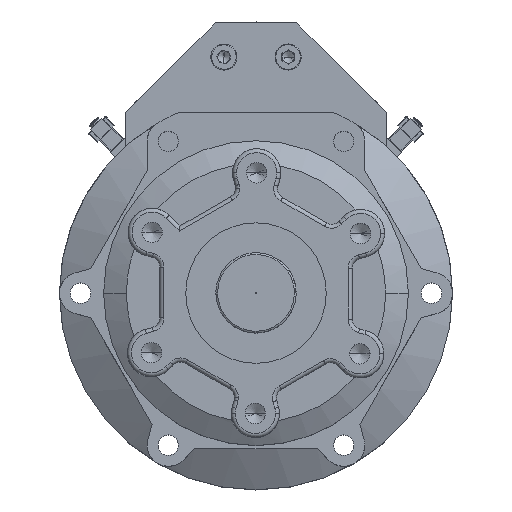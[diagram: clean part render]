
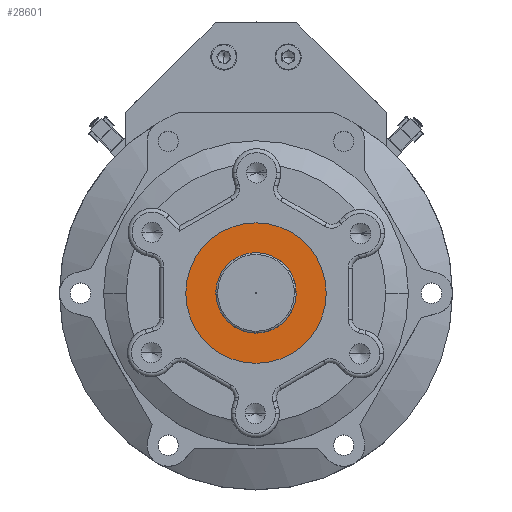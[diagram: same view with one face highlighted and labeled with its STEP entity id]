
A CAD part, top view. The second image highlights one B-rep face of the part: STEP entity #28601.
In plain terms, the highlighted planar face has unit normal (0, 0, 1).
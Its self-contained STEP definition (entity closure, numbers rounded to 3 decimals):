
#1454 = CARTESIAN_POINT ( 'NONE',  ( 35., 0., 89. ) ) ;
#1635 = AXIS2_PLACEMENT_3D ( 'NONE', #3825, #33410, #12878 ) ;
#1771 = EDGE_CURVE ( 'NONE', #25637, #5842, #14122, .T. ) ;
#2329 = DIRECTION ( 'NONE',  ( 0., 0., 1. ) ) ;
#2912 = FACE_BOUND ( 'NONE', #28124, .T. ) ;
#3601 = CARTESIAN_POINT ( 'NONE',  ( 0., 0., 89. ) ) ;
#3825 = CARTESIAN_POINT ( 'NONE',  ( 0., 0., 89. ) ) ;
#5823 = CARTESIAN_POINT ( 'NONE',  ( -35., 0., 89. ) ) ;
#5842 = VERTEX_POINT ( 'NONE', #5823 ) ;
#6342 = ORIENTED_EDGE ( 'NONE', *, *, #1771, .T. ) ;
#6701 = AXIS2_PLACEMENT_3D ( 'NONE', #15328, #30355, #12386 ) ;
#7996 = CIRCLE ( 'NONE', #19417, 20. ) ;
#8003 = VERTEX_POINT ( 'NONE', #23358 ) ;
#8448 = AXIS2_PLACEMENT_3D ( 'NONE', #32106, #38282, #31982 ) ;
#9173 = DIRECTION ( 'NONE',  ( 0., 0., 1. ) ) ;
#11088 = EDGE_CURVE ( 'NONE', #35581, #8003, #18902, .T. ) ;
#12386 = DIRECTION ( 'NONE',  ( 1., 0., 0. ) ) ;
#12878 = DIRECTION ( 'NONE',  ( 1., 0., 0. ) ) ;
#14122 = CIRCLE ( 'NONE', #1635, 35. ) ;
#15328 = CARTESIAN_POINT ( 'NONE',  ( 0., 0., 89. ) ) ;
#18536 = CARTESIAN_POINT ( 'NONE',  ( -20., 0., 89. ) ) ;
#18889 = CIRCLE ( 'NONE', #6701, 35. ) ;
#18902 = CIRCLE ( 'NONE', #8448, 20. ) ;
#19025 = EDGE_CURVE ( 'NONE', #5842, #25637, #18889, .T. ) ;
#19417 = AXIS2_PLACEMENT_3D ( 'NONE', #3601, #9173, #29868 ) ;
#20440 = ORIENTED_EDGE ( 'NONE', *, *, #11088, .F. ) ;
#23316 = EDGE_CURVE ( 'NONE', #8003, #35581, #7996, .T. ) ;
#23358 = CARTESIAN_POINT ( 'NONE',  ( 20., 0., 89. ) ) ;
#25032 = AXIS2_PLACEMENT_3D ( 'NONE', #28843, #2329, #37865 ) ;
#25637 = VERTEX_POINT ( 'NONE', #1454 ) ;
#26207 = EDGE_LOOP ( 'NONE', ( #26307, #6342 ) ) ;
#26307 = ORIENTED_EDGE ( 'NONE', *, *, #19025, .T. ) ;
#28124 = EDGE_LOOP ( 'NONE', ( #28758, #20440 ) ) ;
#28601 = ADVANCED_FACE ( 'NONE', ( #35295, #2912 ), #31836, .T. ) ;
#28758 = ORIENTED_EDGE ( 'NONE', *, *, #23316, .F. ) ;
#28843 = CARTESIAN_POINT ( 'NONE',  ( 0., 0., 89. ) ) ;
#29868 = DIRECTION ( 'NONE',  ( 1., 0., 0. ) ) ;
#30355 = DIRECTION ( 'NONE',  ( 0., 0., 1. ) ) ;
#31836 = PLANE ( 'NONE',  #25032 ) ;
#31982 = DIRECTION ( 'NONE',  ( 1., 0., 0. ) ) ;
#32106 = CARTESIAN_POINT ( 'NONE',  ( 0., 0., 89. ) ) ;
#33410 = DIRECTION ( 'NONE',  ( 0., 0., 1. ) ) ;
#35295 = FACE_OUTER_BOUND ( 'NONE', #26207, .T. ) ;
#35581 = VERTEX_POINT ( 'NONE', #18536 ) ;
#37865 = DIRECTION ( 'NONE',  ( 1., 0., 0. ) ) ;
#38282 = DIRECTION ( 'NONE',  ( 0., 0., 1. ) ) ;
